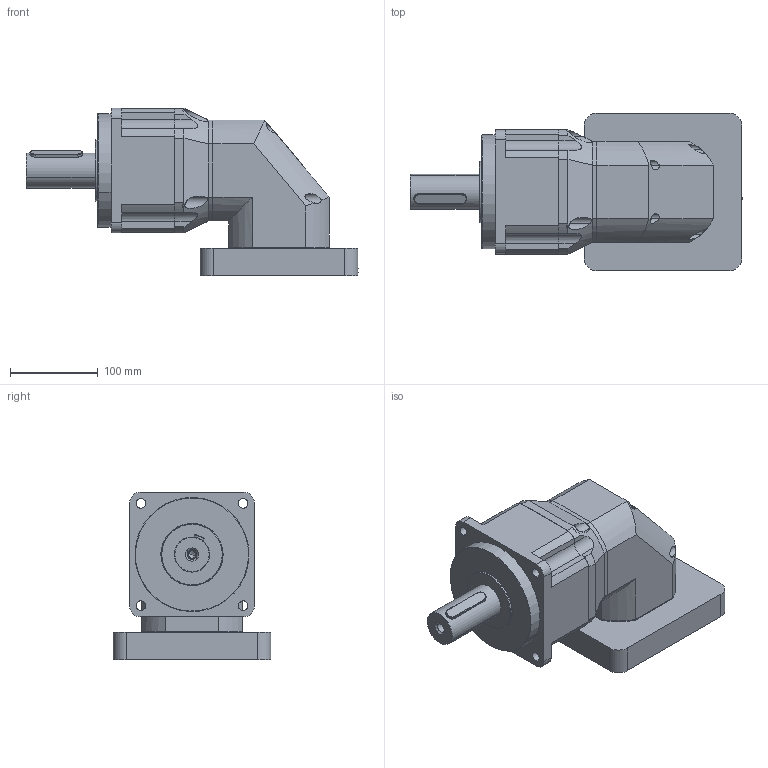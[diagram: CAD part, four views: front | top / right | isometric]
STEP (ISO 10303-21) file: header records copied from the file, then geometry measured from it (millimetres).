
FILE_DESCRIPTION (( 'STEP AP214' ), '1' );
FILE_NAME ('PAR142-L2-S2-P1 35-114.3-200-M12.STEP', '2019-10-30T09:10:34', ( '微软用户' ), ( '微软中国' ), 'SwSTEP 2.0', 'SolidWorks 2014', '' );
FILE_SCHEMA (( 'AUTOMOTIVE_DESIGN' ));
Length unit declared in the file: millimetre
Products named in the file (2): PAR142-L2-S2-P1 35-114.3-200-M12
Bounding box: 378.5 x 180 x 191.06 mm (x, y, z)
Volume: 4535054.1 mm3; surface area: 378925.1 mm2
Topology: 5 solids, 5 shells, 895 faces, 2508 edges, 1663 vertices
Faces by surface type: plane 666, cylinder 150, bspline 60, torus 11, cone 8
Entity records: 37989 total; most frequent: CARTESIAN_POINT 7467, ORIENTED_EDGE 5012, DIRECTION 4281, EDGE_CURVE 2506, LINE 2007, VECTOR 2007, VERTEX_POINT 1663, AXIS2_PLACEMENT_3D 1137
